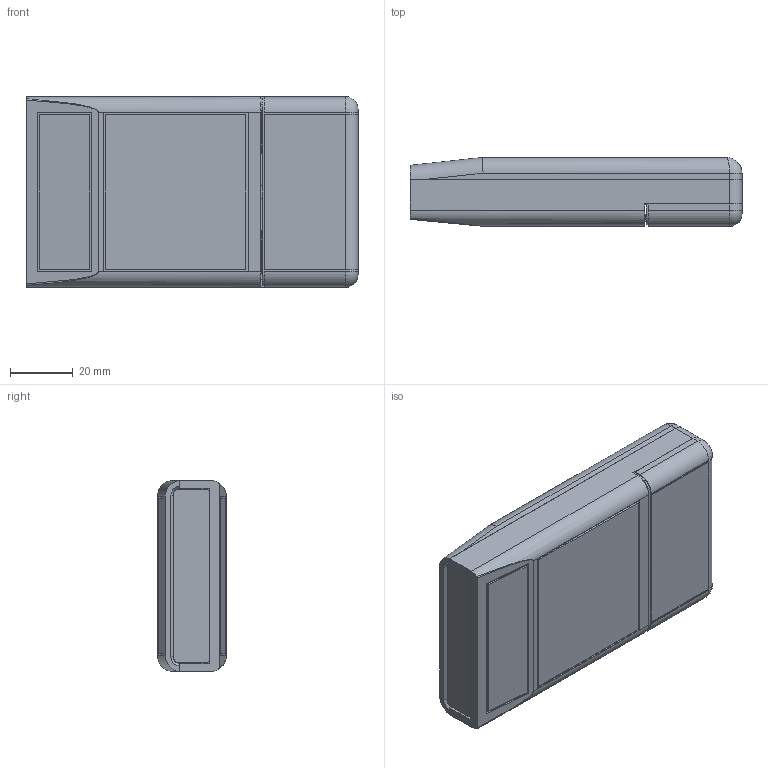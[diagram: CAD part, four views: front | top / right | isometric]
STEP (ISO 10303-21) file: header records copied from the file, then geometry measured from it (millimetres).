
FILE_DESCRIPTION (( 'STEP AP214' ), '1' );
FILE_NAME ('Conjunt PP51.STEP', '2018-07-09T16:18:39', ( 'aaa' ), ( '' ), 'SwSTEP 2.0', 'SolidWorks 2013', '' );
FILE_SCHEMA (( 'AUTOMOTIVE_DESIGN' ));
Length unit declared in the file: millimetre
Products named in the file (7): Tapa delantera PP51; Tapa PP51; Cuerpo PP51; Conjunt PP51; Tapa Trasera PP51; Cargol 2,2x6,5 PP51; Cargol 2,2x13 PP51
Assembly tree (8 placements, depth 2):
  Conjunt PP51
    Cuerpo PP51
    Tapa PP51
    Tapa delantera PP51
    Cargol 2,2x13 PP51  x2
    Cargol 2,2x6,5 PP51  x2
    Tapa Trasera PP51
Bounding box: 105.7 x 21.9 x 60.8 mm (x, y, z)
Volume: 46175.1 mm3; surface area: 42566 mm2
Topology: 8 solids, 8 shells, 703 faces, 1650 edges, 992 vertices
Faces by surface type: plane 319, cone 276, cylinder 94, bspline 8, torus 6
Entity records: 15913 total; most frequent: CARTESIAN_POINT 3145, DIRECTION 2606, ORIENTED_EDGE 2564, EDGE_CURVE 1282, LINE 934, VECTOR 934, AXIS2_PLACEMENT_3D 836, VERTEX_POINT 800
